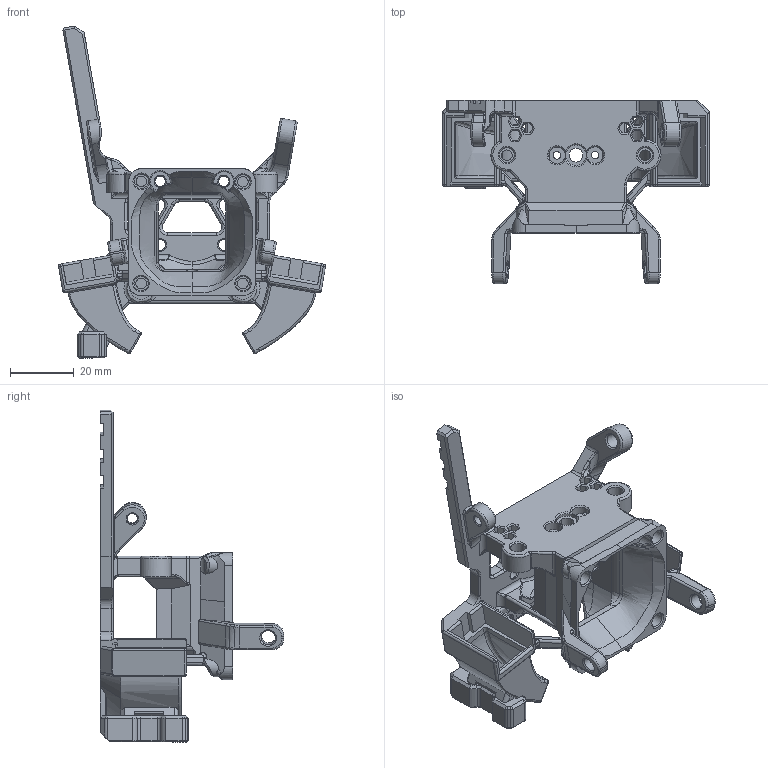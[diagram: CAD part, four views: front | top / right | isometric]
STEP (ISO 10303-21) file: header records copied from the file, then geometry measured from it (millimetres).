
FILE_DESCRIPTION(/* description */ (''),/* implementation_level */ '2;1');
FILE_NAME(/* name */ 'Toolhead Body_Sherpa_NF Crazy Volcano_Quickdraw v4.step',/* time_stamp */ '2023-10-11T03:42:54-05:00',/* author */ (''),/* organization */ (''),/* preprocessor_version */ 'ST-DEVELOPER v20',/* originating_system */ 'Autodesk Translation Framework v12.14.0.127',/* authorisation */ '');
FILE_SCHEMA (('AUTOMOTIVE_DESIGN { 1 0 10303 214 3 1 1 }'));
Products named in the file (1): Toolhead Body_Sherpa_NF Crazy Volcano_Quickdraw
Bounding box: 84.01 x 57.7 x 104.44 mm (x, y, z)
Volume: 33693.1 mm3; surface area: 27255.6 mm2
Topology: 1 solids, 1 shells, 1128 faces, 3034 edges, 1875 vertices
Faces by surface type: plane 379, cylinder 327, bspline 284, torus 70, cone 60, sphere 8
Full cylindrical faces by diameter (mm): 2 x2, 2.4 x2, 3.3 x13, 4.1 x2, 4.5 x7, 4.7 x2, 5.2 x2, 6.1 x1, 6.2 x2, 6.5 x1
Entity records: 69967 total; most frequent: CARTESIAN_POINT 43202, ORIENTED_EDGE 6032, DIRECTION 5010, EDGE_CURVE 3016, VERTEX_POINT 1875, AXIS2_PLACEMENT_3D 1820, LINE 1370, VECTOR 1370
